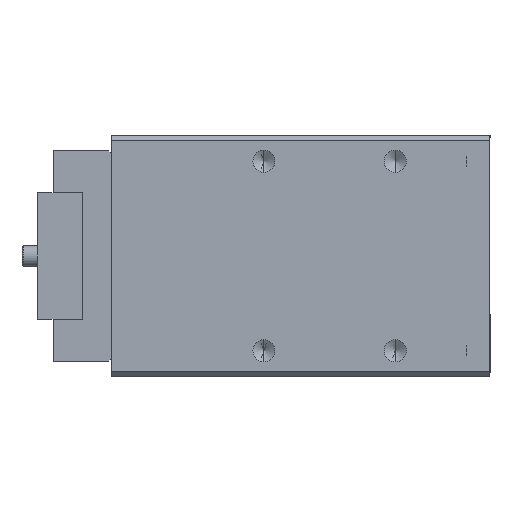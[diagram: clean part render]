
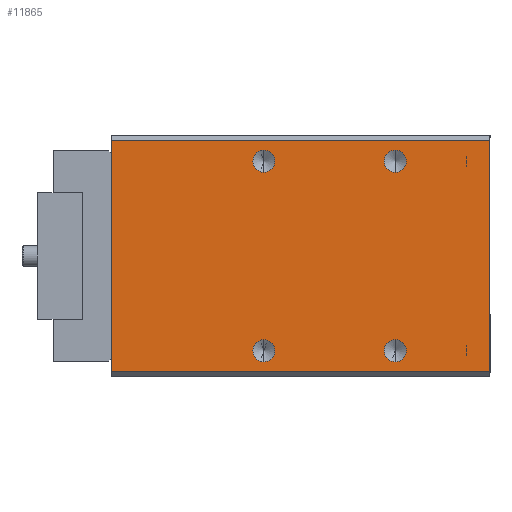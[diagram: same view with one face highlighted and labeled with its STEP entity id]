
A CAD part, left-side view. The second image highlights one B-rep face of the part: STEP entity #11865.
In plain terms, the highlighted planar face has unit normal (-1, 0, 0).
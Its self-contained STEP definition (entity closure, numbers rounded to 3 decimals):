
#3789 = CARTESIAN_POINT ( 'NONE',  ( -30., 72., 22. ) ) ;
#3790 = DIRECTION ( 'NONE',  ( 0., 0., -1. ) ) ;
#3791 = VECTOR ( 'NONE', #3790, 1000. ) ;
#3792 = CARTESIAN_POINT ( 'NONE',  ( -30., 72., 23. ) ) ;
#3793 = LINE ( 'NONE', #3792, #3791 ) ;
#3815 = CARTESIAN_POINT ( 'NONE',  ( -30., 72., -22. ) ) ;
#3871 = DIRECTION ( 'NONE',  ( 0., 0., -1. ) ) ;
#3872 = DIRECTION ( 'NONE',  ( 1., 0., 0. ) ) ;
#3873 = CARTESIAN_POINT ( 'NONE',  ( -30., 0., 23. ) ) ;
#3874 = AXIS2_PLACEMENT_3D ( 'NONE', #3873, #3872, #3871 ) ;
#3875 = PLANE ( 'NONE',  #3874 ) ;
#3890 = FACE_BOUND ( 'NONE', #11934, .T. ) ;
#3891 = FACE_BOUND ( 'NONE', #11851, .T. ) ;
#3892 = FACE_BOUND ( 'NONE', #11879, .T. ) ;
#3893 = FACE_OUTER_BOUND ( 'NONE', #11780, .T. ) ;
#3894 = FACE_BOUND ( 'NONE', #11859, .T. ) ;
#3915 = DIRECTION ( 'NONE',  ( 0., 0., 1. ) ) ;
#3916 = DIRECTION ( 'NONE',  ( -1., 0., 0. ) ) ;
#3917 = CARTESIAN_POINT ( 'NONE',  ( -30., 29., 18. ) ) ;
#3918 = AXIS2_PLACEMENT_3D ( 'NONE', #3917, #3916, #3915 ) ;
#3919 = CIRCLE ( 'NONE', #3918, 2.1 ) ;
#3933 = DIRECTION ( 'NONE',  ( 0., 0., -1. ) ) ;
#3934 = VECTOR ( 'NONE', #3933, 1000. ) ;
#3935 = CARTESIAN_POINT ( 'NONE',  ( -30., 0., 23. ) ) ;
#3936 = LINE ( 'NONE', #3935, #3934 ) ;
#3937 = CARTESIAN_POINT ( 'NONE',  ( -30., 0., 22. ) ) ;
#3938 = CARTESIAN_POINT ( 'NONE',  ( -30., 0., -22. ) ) ;
#3944 = DIRECTION ( 'NONE',  ( 0., 1., 0. ) ) ;
#3945 = VECTOR ( 'NONE', #3944, 1000. ) ;
#3946 = CARTESIAN_POINT ( 'NONE',  ( -30., 72., 22. ) ) ;
#3947 = LINE ( 'NONE', #3946, #3945 ) ;
#3948 = DIRECTION ( 'NONE',  ( 0., 0., 1. ) ) ;
#3949 = DIRECTION ( 'NONE',  ( -1., 0., 0. ) ) ;
#3950 = AXIS2_PLACEMENT_3D ( 'NONE', #3956, #3949, #3948 ) ;
#3951 = CIRCLE ( 'NONE', #3950, 2.1 ) ;
#3956 = CARTESIAN_POINT ( 'NONE',  ( -30., 54., -18. ) ) ;
#3991 = DIRECTION ( 'NONE',  ( 0., -1., 0. ) ) ;
#3992 = VECTOR ( 'NONE', #3991, 1000. ) ;
#3993 = CARTESIAN_POINT ( 'NONE',  ( -30., 0., -22. ) ) ;
#3994 = LINE ( 'NONE', #3993, #3992 ) ;
#4091 = DIRECTION ( 'NONE',  ( 0., 0., 1. ) ) ;
#4092 = DIRECTION ( 'NONE',  ( -1., 0., 0. ) ) ;
#4093 = CARTESIAN_POINT ( 'NONE',  ( -30., 54., 18. ) ) ;
#4094 = AXIS2_PLACEMENT_3D ( 'NONE', #4093, #4092, #4091 ) ;
#4095 = CIRCLE ( 'NONE', #4094, 2.1 ) ;
#5327 = DIRECTION ( 'NONE',  ( 0., 0., 1. ) ) ;
#5328 = DIRECTION ( 'NONE',  ( -1., 0., 0. ) ) ;
#5329 = CARTESIAN_POINT ( 'NONE',  ( -30., 29., -18. ) ) ;
#5330 = AXIS2_PLACEMENT_3D ( 'NONE', #5329, #5328, #5327 ) ;
#5331 = CIRCLE ( 'NONE', #5330, 2.1 ) ;
#9129 = CARTESIAN_POINT ( 'NONE',  ( -30., 29., -20.1 ) ) ;
#9338 = CARTESIAN_POINT ( 'NONE',  ( -30., 29., 20.1 ) ) ;
#9339 = DIRECTION ( 'NONE',  ( 0., 0., 1. ) ) ;
#9340 = DIRECTION ( 'NONE',  ( -1., 0., 0. ) ) ;
#9341 = CARTESIAN_POINT ( 'NONE',  ( -30., 29., 18. ) ) ;
#9342 = AXIS2_PLACEMENT_3D ( 'NONE', #9341, #9340, #9339 ) ;
#9343 = CIRCLE ( 'NONE', #9342, 2.1 ) ;
#9404 = DIRECTION ( 'NONE',  ( 0., 0., 1. ) ) ;
#9405 = DIRECTION ( 'NONE',  ( -1., 0., 0. ) ) ;
#9406 = CARTESIAN_POINT ( 'NONE',  ( -30., 54., 18. ) ) ;
#9407 = AXIS2_PLACEMENT_3D ( 'NONE', #9406, #9405, #9404 ) ;
#9408 = CIRCLE ( 'NONE', #9407, 2.1 ) ;
#9409 = CARTESIAN_POINT ( 'NONE',  ( -30., 54., 20.1 ) ) ;
#9454 = CARTESIAN_POINT ( 'NONE',  ( -30., 54., 15.9 ) ) ;
#9598 = CARTESIAN_POINT ( 'NONE',  ( -30., 29., 15.9 ) ) ;
#9599 = CARTESIAN_POINT ( 'NONE',  ( -30., 54., -15.9 ) ) ;
#9600 = DIRECTION ( 'NONE',  ( 0., 0., 1. ) ) ;
#9601 = DIRECTION ( 'NONE',  ( -1., 0., 0. ) ) ;
#9602 = CARTESIAN_POINT ( 'NONE',  ( -30., 54., -18. ) ) ;
#9603 = AXIS2_PLACEMENT_3D ( 'NONE', #9602, #9601, #9600 ) ;
#9604 = CIRCLE ( 'NONE', #9603, 2.1 ) ;
#9605 = CARTESIAN_POINT ( 'NONE',  ( -30., 54., -20.1 ) ) ;
#9631 = CARTESIAN_POINT ( 'NONE',  ( -30., 29., -15.9 ) ) ;
#11156 = DIRECTION ( 'NONE',  ( 0., 0., 1. ) ) ;
#11157 = DIRECTION ( 'NONE',  ( -1., 0., 0. ) ) ;
#11158 = CARTESIAN_POINT ( 'NONE',  ( -30., 29., -18. ) ) ;
#11159 = AXIS2_PLACEMENT_3D ( 'NONE', #11158, #11157, #11156 ) ;
#11160 = CIRCLE ( 'NONE', #11159, 2.1 ) ;
#11778 = ORIENTED_EDGE ( 'NONE', *, *, #13563, .F. ) ;
#11780 = EDGE_LOOP ( 'NONE', ( #11782, #11895, #11894, #11880 ) ) ;
#11782 = ORIENTED_EDGE ( 'NONE', *, *, #11832, .T. ) ;
#11791 = ORIENTED_EDGE ( 'NONE', *, *, #12320, .F. ) ;
#11832 = EDGE_CURVE ( 'NONE', #11833, #11846, #3793, .T. ) ;
#11833 = VERTEX_POINT ( 'NONE', #3789 ) ;
#11846 = VERTEX_POINT ( 'NONE', #3815 ) ;
#11851 = EDGE_LOOP ( 'NONE', ( #11791, #11958 ) ) ;
#11859 = EDGE_LOOP ( 'NONE', ( #11862, #11778 ) ) ;
#11862 = ORIENTED_EDGE ( 'NONE', *, *, #11873, .F. ) ;
#11865 = ADVANCED_FACE ( 'NONE', ( #3894, #3893, #3892, #3891, #3890 ), #3875, .F. ) ;
#11873 = EDGE_CURVE ( 'NONE', #13564, #13652, #3919, .T. ) ;
#11874 = ORIENTED_EDGE ( 'NONE', *, *, #13647, .F. ) ;
#11876 = ORIENTED_EDGE ( 'NONE', *, *, #11878, .F. ) ;
#11878 = EDGE_CURVE ( 'NONE', #13649, #13645, #3951, .T. ) ;
#11879 = EDGE_LOOP ( 'NONE', ( #11876, #11874 ) ) ;
#11880 = ORIENTED_EDGE ( 'NONE', *, *, #11881, .T. ) ;
#11881 = EDGE_CURVE ( 'NONE', #11892, #11833, #3947, .T. ) ;
#11891 = VERTEX_POINT ( 'NONE', #3938 ) ;
#11892 = VERTEX_POINT ( 'NONE', #3937 ) ;
#11893 = EDGE_CURVE ( 'NONE', #11892, #11891, #3936, .T. ) ;
#11894 = ORIENTED_EDGE ( 'NONE', *, *, #11893, .F. ) ;
#11895 = ORIENTED_EDGE ( 'NONE', *, *, #11898, .T. ) ;
#11898 = EDGE_CURVE ( 'NONE', #11846, #11891, #3994, .T. ) ;
#11934 = EDGE_LOOP ( 'NONE', ( #11946, #11936 ) ) ;
#11936 = ORIENTED_EDGE ( 'NONE', *, *, #13573, .F. ) ;
#11945 = EDGE_CURVE ( 'NONE', #13571, #13589, #4095, .T. ) ;
#11946 = ORIENTED_EDGE ( 'NONE', *, *, #11945, .F. ) ;
#11958 = ORIENTED_EDGE ( 'NONE', *, *, #14175, .F. ) ;
#12320 = EDGE_CURVE ( 'NONE', #13657, #13509, #5331, .T. ) ;
#13509 = VERTEX_POINT ( 'NONE', #9129 ) ;
#13563 = EDGE_CURVE ( 'NONE', #13652, #13564, #9343, .T. ) ;
#13564 = VERTEX_POINT ( 'NONE', #9338 ) ;
#13571 = VERTEX_POINT ( 'NONE', #9409 ) ;
#13573 = EDGE_CURVE ( 'NONE', #13589, #13571, #9408, .T. ) ;
#13589 = VERTEX_POINT ( 'NONE', #9454 ) ;
#13645 = VERTEX_POINT ( 'NONE', #9605 ) ;
#13647 = EDGE_CURVE ( 'NONE', #13645, #13649, #9604, .T. ) ;
#13649 = VERTEX_POINT ( 'NONE', #9599 ) ;
#13652 = VERTEX_POINT ( 'NONE', #9598 ) ;
#13657 = VERTEX_POINT ( 'NONE', #9631 ) ;
#14175 = EDGE_CURVE ( 'NONE', #13509, #13657, #11160, .T. ) ;
